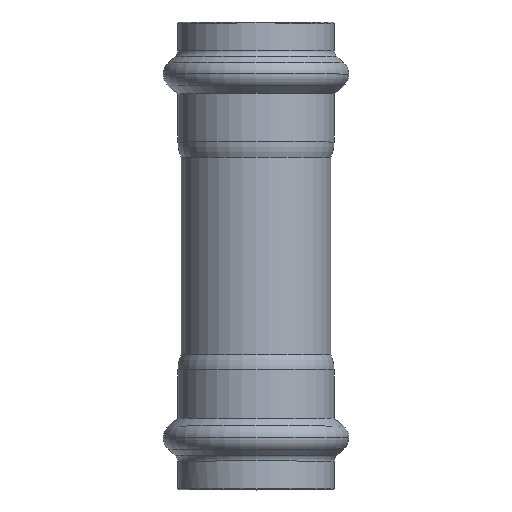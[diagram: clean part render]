
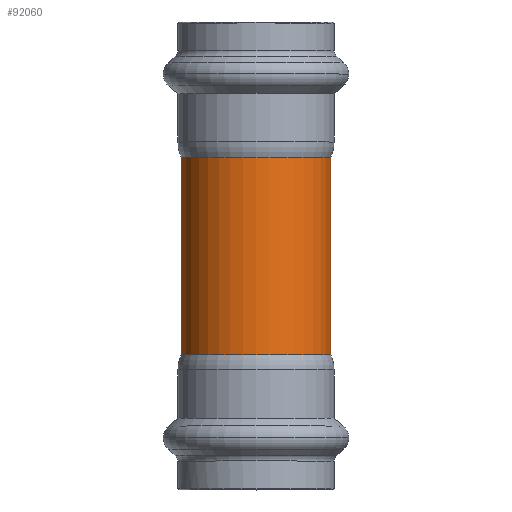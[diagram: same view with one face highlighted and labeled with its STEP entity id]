
A CAD part, top view. The second image highlights one B-rep face of the part: STEP entity #92060.
In plain terms, the highlighted cylindrical face has radius 15 mm (diameter 30 mm), a partial arc.
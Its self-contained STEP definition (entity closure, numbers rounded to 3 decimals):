
#61400=CARTESIAN_POINT('',(0.,1.7,-42.));
#61410=DIRECTION('',(0.,1.,0.));
#61420=DIRECTION('',(-1.,0.,0.));
#61430=AXIS2_PLACEMENT_3D('',#61400,#61410,#61420);
#61440=CYLINDRICAL_SURFACE('',#61430,15.);
#61450=CARTESIAN_POINT('',(-15.,1.7,-42.));
#61460=DIRECTION('',(0.,1.,0.));
#61470=VECTOR('',#61460,1.);
#61480=LINE('',#61450,#61470);
#61490=CARTESIAN_POINT('',(-15.,-19.8,-42.));
#61500=VERTEX_POINT('',#61490);
#61510=CARTESIAN_POINT('',(-15.,19.8,-42.));
#61520=VERTEX_POINT('',#61510);
#61530=EDGE_CURVE('',#61500,#61520,#61480,.T.);
#61550=CARTESIAN_POINT('',(0.,19.8,-42.));
#61560=DIRECTION('',(0.,1.,0.));
#61570=DIRECTION('',(1.,0.,0.));
#61580=AXIS2_PLACEMENT_3D('',#61550,#61560,#61570);
#61590=CIRCLE('',#61580,15.);
#61600=CARTESIAN_POINT('',(15.,19.8,-42.));
#61610=VERTEX_POINT('',#61600);
#61640=CARTESIAN_POINT('',(15.,1.7,-42.));
#61650=DIRECTION('',(0.,1.,0.));
#61660=VECTOR('',#61650,1.);
#61670=LINE('',#61640,#61660);
#61680=CARTESIAN_POINT('',(15.,-19.8,-42.));
#61690=VERTEX_POINT('',#61680);
#61700=EDGE_CURVE('',#61690,#61610,#61670,.T.);
#61720=CARTESIAN_POINT('',(0.,-19.8,-42.));
#61730=DIRECTION('',(0.,1.,0.));
#61740=DIRECTION('',(1.,0.,0.));
#61750=AXIS2_PLACEMENT_3D('',#61720,#61730,#61740);
#61760=CIRCLE('',#61750,15.);
#91980=EDGE_CURVE('',#61690,#61500,#61760,.T.);
#91990=ORIENTED_EDGE('',*,*,#91980,.T.);
#92000=ORIENTED_EDGE('',*,*,#61700,.F.);
#92010=EDGE_CURVE('',#61610,#61520,#61590,.T.);
#92020=ORIENTED_EDGE('',*,*,#92010,.F.);
#92030=ORIENTED_EDGE('',*,*,#61530,.T.);
#92040=EDGE_LOOP('',(#92030,#92020,#92000,#91990));
#92050=FACE_OUTER_BOUND('',#92040,.T.);
#92060=ADVANCED_FACE('',(#92050),#61440,.T.);
